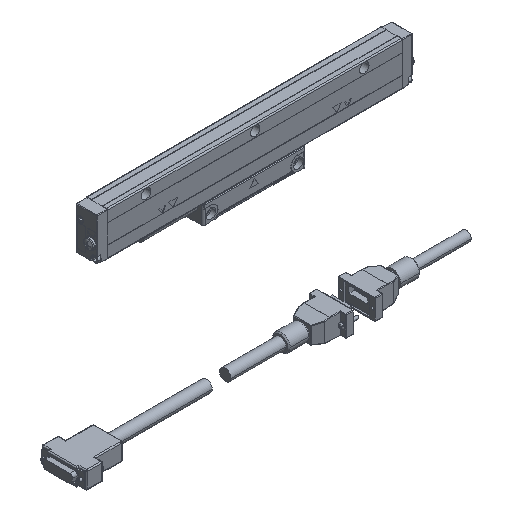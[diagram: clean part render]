
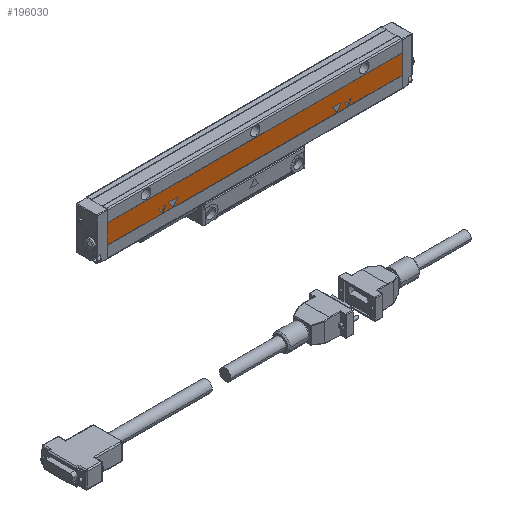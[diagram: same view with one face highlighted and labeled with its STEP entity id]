
A CAD part, isometric view. The second image highlights one B-rep face of the part: STEP entity #196030.
In plain terms, the highlighted planar face has unit normal (0, -1, 0) as drawn and (-1, 0, 0) by its records, which use the part's own axes.
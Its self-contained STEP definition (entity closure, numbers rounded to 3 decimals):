
#137180=CARTESIAN_POINT('',(24.2,75.2,970.));
#137190=VERTEX_POINT('',#137180);
#157660=CARTESIAN_POINT('',(24.2,92.8,400.5));
#157670=DIRECTION('',(0.,0.,1.));
#157680=VECTOR('',#157670,1.);
#157690=LINE('',#157660,#157680);
#157700=CARTESIAN_POINT('',(24.2,92.8,700.));
#157710=VERTEX_POINT('',#157700);
#157720=CARTESIAN_POINT('',(24.2,92.8,970.));
#157730=VERTEX_POINT('',#157720);
#157740=EDGE_CURVE('',#157710,#157730,#157690,.T.);
#171030=CARTESIAN_POINT('',(24.2,0.,970.));
#171040=DIRECTION('',(0.,1.,0.));
#171050=VECTOR('',#171040,1.);
#171060=LINE('',#171030,#171050);
#171070=EDGE_CURVE('',#137190,#157730,#171060,.T.);
#188600=CARTESIAN_POINT('',(24.2,80.2,922.131));
#188610=VERTEX_POINT('',#188600);
#188760=CARTESIAN_POINT('',(24.2,77.003,920.));
#188770=VERTEX_POINT('',#188760);
#188800=CARTESIAN_POINT('',(24.2,0.,868.665));
#188810=DIRECTION('',(0.,0.832,0.555));
#188820=VECTOR('',#188810,1.);
#188830=LINE('',#188800,#188820);
#188840=EDGE_CURVE('',#188770,#188610,#188830,.T.);
#194250=CARTESIAN_POINT('',(24.2,93.,-79.));
#194260=DIRECTION('',(1.,0.,0.));
#194270=DIRECTION('',(0.,-1.,0.));
#194280=AXIS2_PLACEMENT_3D('',#194250,#194260,#194270);
#194290=PLANE('',#194280);
#194300=CARTESIAN_POINT('',(24.2,0.,869.867));
#194310=DIRECTION('',(0.,-0.832,-0.555));
#194320=VECTOR('',#194310,1.);
#194330=LINE('',#194300,#194320);
#194340=CARTESIAN_POINT('',(24.2,80.2,923.333));
#194350=VERTEX_POINT('',#194340);
#194360=CARTESIAN_POINT('',(24.2,75.2,920.));
#194370=VERTEX_POINT('',#194360);
#194380=EDGE_CURVE('',#194350,#194370,#194330,.T.);
#194390=ORIENTED_EDGE('',*,*,#194380,.T.);
#194400=CARTESIAN_POINT('',(24.2,80.2,0.));
#194410=DIRECTION('',(0.,0.,1.));
#194420=VECTOR('',#194410,1.);
#194430=LINE('',#194400,#194420);
#194440=EDGE_CURVE('',#188610,#194350,#194430,.T.);
#194450=ORIENTED_EDGE('',*,*,#194440,.T.);
#194460=ORIENTED_EDGE('',*,*,#188840,.T.);
#194470=CARTESIAN_POINT('',(24.2,0.,971.335));
#194480=DIRECTION('',(0.,-0.832,0.555));
#194490=VECTOR('',#194480,1.);
#194500=LINE('',#194470,#194490);
#194510=CARTESIAN_POINT('',(24.2,80.2,917.869));
#194520=VERTEX_POINT('',#194510);
#194530=EDGE_CURVE('',#194520,#188770,#194500,.T.);
#194540=ORIENTED_EDGE('',*,*,#194530,.T.);
#194550=CARTESIAN_POINT('',(24.2,80.2,0.));
#194560=DIRECTION('',(0.,0.,1.));
#194570=VECTOR('',#194560,1.);
#194580=LINE('',#194550,#194570);
#194590=CARTESIAN_POINT('',(24.2,80.2,916.667));
#194600=VERTEX_POINT('',#194590);
#194610=EDGE_CURVE('',#194600,#194520,#194580,.T.);
#194620=ORIENTED_EDGE('',*,*,#194610,.T.);
#194630=CARTESIAN_POINT('',(24.2,0.,970.133));
#194640=DIRECTION('',(0.,0.832,-0.555));
#194650=VECTOR('',#194640,1.);
#194660=LINE('',#194630,#194650);
#194670=EDGE_CURVE('',#194370,#194600,#194660,.T.);
#194680=ORIENTED_EDGE('',*,*,#194670,.T.);
#194690=CARTESIAN_POINT('',(24.2,75.2,-100.));
#194700=DIRECTION('',(0.,0.,1.));
#194710=VECTOR('',#194700,1.);
#194720=LINE('',#194690,#194710);
#194730=CARTESIAN_POINT('',(24.2,75.2,910.));
#194740=VERTEX_POINT('',#194730);
#194750=EDGE_CURVE('',#194740,#194370,#194720,.T.);
#194760=ORIENTED_EDGE('',*,*,#194750,.T.);
#194770=CARTESIAN_POINT('',(24.2,0.,859.867));
#194780=DIRECTION('',(0.,0.832,0.555));
#194790=VECTOR('',#194780,1.);
#194800=LINE('',#194770,#194790);
#194810=CARTESIAN_POINT('',(24.2,81.2,914.));
#194820=VERTEX_POINT('',#194810);
#194830=EDGE_CURVE('',#194740,#194820,#194800,.T.);
#194840=ORIENTED_EDGE('',*,*,#194830,.F.);
#194850=CARTESIAN_POINT('',(24.2,81.2,0.));
#194860=DIRECTION('',(0.,0.,-1.));
#194870=VECTOR('',#194860,1.);
#194880=LINE('',#194850,#194870);
#194890=CARTESIAN_POINT('',(24.2,81.2,906.));
#194900=VERTEX_POINT('',#194890);
#194910=EDGE_CURVE('',#194820,#194900,#194880,.T.);
#194920=ORIENTED_EDGE('',*,*,#194910,.F.);
#194930=CARTESIAN_POINT('',(24.2,0.,960.133));
#194940=DIRECTION('',(0.,-0.832,0.555));
#194950=VECTOR('',#194940,1.);
#194960=LINE('',#194930,#194950);
#194970=EDGE_CURVE('',#194900,#194740,#194960,.T.);
#194980=ORIENTED_EDGE('',*,*,#194970,.F.);
#194990=CARTESIAN_POINT('',(24.2,75.2,0.));
#195000=DIRECTION('',(0.,0.,1.));
#195010=VECTOR('',#195000,1.);
#195020=LINE('',#194990,#195010);
#195030=CARTESIAN_POINT('',(24.2,75.2,760.));
#195040=VERTEX_POINT('',#195030);
#195050=EDGE_CURVE('',#195040,#194740,#195020,.T.);
#195060=ORIENTED_EDGE('',*,*,#195050,.T.);
#195070=CARTESIAN_POINT('',(24.2,0.,709.867));
#195080=DIRECTION('',(0.,0.832,0.555));
#195090=VECTOR('',#195080,1.);
#195100=LINE('',#195070,#195090);
#195110=CARTESIAN_POINT('',(24.2,81.2,764.));
#195120=VERTEX_POINT('',#195110);
#195130=EDGE_CURVE('',#195040,#195120,#195100,.T.);
#195140=ORIENTED_EDGE('',*,*,#195130,.F.);
#195150=CARTESIAN_POINT('',(24.2,81.2,200.));
#195160=DIRECTION('',(0.,0.,-1.));
#195170=VECTOR('',#195160,1.);
#195180=LINE('',#195150,#195170);
#195190=CARTESIAN_POINT('',(24.2,81.2,756.));
#195200=VERTEX_POINT('',#195190);
#195210=EDGE_CURVE('',#195120,#195200,#195180,.T.);
#195220=ORIENTED_EDGE('',*,*,#195210,.F.);
#195230=CARTESIAN_POINT('',(24.2,0.,810.133));
#195240=DIRECTION('',(0.,-0.832,0.555));
#195250=VECTOR('',#195240,1.);
#195260=LINE('',#195230,#195250);
#195270=EDGE_CURVE('',#195200,#195040,#195260,.T.);
#195280=ORIENTED_EDGE('',*,*,#195270,.F.);
#195290=CARTESIAN_POINT('',(24.2,75.2,100.));
#195300=DIRECTION('',(0.,0.,1.));
#195310=VECTOR('',#195300,1.);
#195320=LINE('',#195290,#195310);
#195330=CARTESIAN_POINT('',(24.2,75.2,750.));
#195340=VERTEX_POINT('',#195330);
#195350=EDGE_CURVE('',#195340,#195040,#195320,.T.);
#195360=ORIENTED_EDGE('',*,*,#195350,.T.);
#195370=CARTESIAN_POINT('',(24.2,0.,699.867));
#195380=DIRECTION('',(0.,0.832,0.555));
#195390=VECTOR('',#195380,1.);
#195400=LINE('',#195370,#195390);
#195410=CARTESIAN_POINT('',(24.2,80.2,753.333));
#195420=VERTEX_POINT('',#195410);
#195430=EDGE_CURVE('',#195340,#195420,#195400,.T.);
#195440=ORIENTED_EDGE('',*,*,#195430,.F.);
#195450=CARTESIAN_POINT('',(24.2,80.2,205.));
#195460=DIRECTION('',(0.,0.,-1.));
#195470=VECTOR('',#195460,1.);
#195480=LINE('',#195450,#195470);
#195490=CARTESIAN_POINT('',(24.2,80.2,752.131));
#195500=VERTEX_POINT('',#195490);
#195510=EDGE_CURVE('',#195420,#195500,#195480,.T.);
#195520=ORIENTED_EDGE('',*,*,#195510,.F.);
#195530=CARTESIAN_POINT('',(24.2,0.,698.665));
#195540=DIRECTION('',(0.,-0.832,-0.555));
#195550=VECTOR('',#195540,1.);
#195560=LINE('',#195530,#195550);
#195570=CARTESIAN_POINT('',(24.2,77.003,750.));
#195580=VERTEX_POINT('',#195570);
#195590=EDGE_CURVE('',#195500,#195580,#195560,.T.);
#195600=ORIENTED_EDGE('',*,*,#195590,.F.);
#195610=CARTESIAN_POINT('',(24.2,0.,801.335));
#195620=DIRECTION('',(0.,0.832,-0.555));
#195630=VECTOR('',#195620,1.);
#195640=LINE('',#195610,#195630);
#195650=CARTESIAN_POINT('',(24.2,80.2,747.869));
#195660=VERTEX_POINT('',#195650);
#195670=EDGE_CURVE('',#195580,#195660,#195640,.T.);
#195680=ORIENTED_EDGE('',*,*,#195670,.F.);
#195690=CARTESIAN_POINT('',(24.2,80.2,205.));
#195700=DIRECTION('',(0.,0.,-1.));
#195710=VECTOR('',#195700,1.);
#195720=LINE('',#195690,#195710);
#195730=CARTESIAN_POINT('',(24.2,80.2,746.667));
#195740=VERTEX_POINT('',#195730);
#195750=EDGE_CURVE('',#195660,#195740,#195720,.T.);
#195760=ORIENTED_EDGE('',*,*,#195750,.F.);
#195770=CARTESIAN_POINT('',(24.2,0.,800.133));
#195780=DIRECTION('',(0.,-0.832,0.555));
#195790=VECTOR('',#195780,1.);
#195800=LINE('',#195770,#195790);
#195810=EDGE_CURVE('',#195740,#195340,#195800,.T.);
#195820=ORIENTED_EDGE('',*,*,#195810,.F.);
#195830=CARTESIAN_POINT('',(24.2,75.2,100.));
#195840=DIRECTION('',(0.,0.,1.));
#195850=VECTOR('',#195840,1.);
#195860=LINE('',#195830,#195850);
#195870=CARTESIAN_POINT('',(24.2,75.2,700.));
#195880=VERTEX_POINT('',#195870);
#195890=EDGE_CURVE('',#195880,#195340,#195860,.T.);
#195900=ORIENTED_EDGE('',*,*,#195890,.T.);
#195910=CARTESIAN_POINT('',(24.2,0.,700.));
#195920=DIRECTION('',(0.,-1.,0.));
#195930=VECTOR('',#195920,1.);
#195940=LINE('',#195910,#195930);
#195950=EDGE_CURVE('',#157710,#195880,#195940,.T.);
#195960=ORIENTED_EDGE('',*,*,#195950,.T.);
#195970=ORIENTED_EDGE('',*,*,#157740,.F.);
#195980=ORIENTED_EDGE('',*,*,#171070,.T.);
#195990=EDGE_CURVE('',#194370,#137190,#194720,.T.);
#196000=ORIENTED_EDGE('',*,*,#195990,.T.);
#196010=EDGE_LOOP('',(#196000,#195980,#195970,#195960,#195900,#195820,
#195760,#195680,#195600,#195520,#195440,#195360,#195280,#195220,#195140,
#195060,#194980,#194920,#194840,#194760,#194680,#194620,#194540,#194460,
#194450,#194390));
#196020=FACE_OUTER_BOUND('',#196010,.T.);
#196030=ADVANCED_FACE('',(#196020),#194290,.F.);
